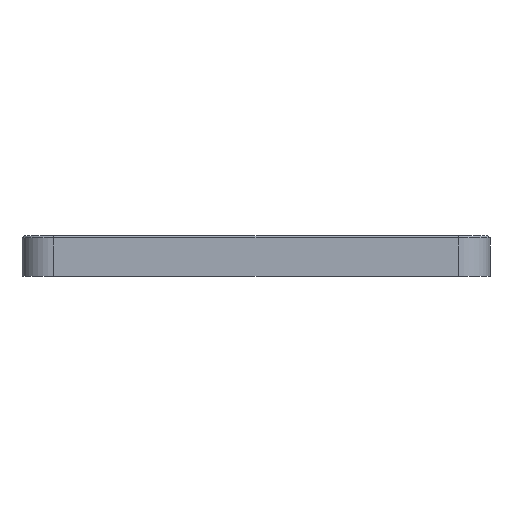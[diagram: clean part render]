
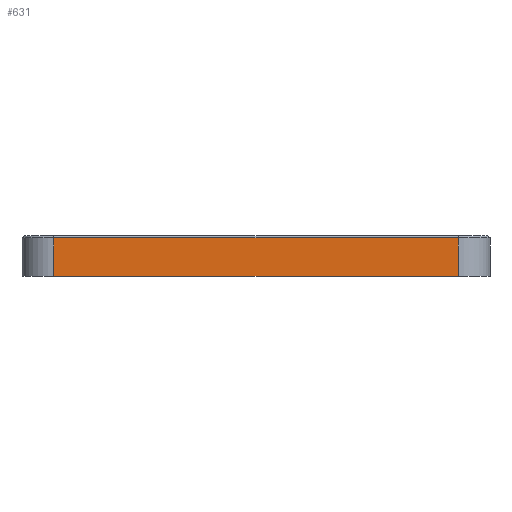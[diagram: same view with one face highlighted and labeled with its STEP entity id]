
A CAD part, left-side view. The second image highlights one B-rep face of the part: STEP entity #631.
In plain terms, the highlighted planar face has unit normal (-1, 0, 0).
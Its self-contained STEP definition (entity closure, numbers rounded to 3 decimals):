
#6 = CARTESIAN_POINT ( 'NONE',  ( -240., -205.5, -1. ) ) ;
#15 = CARTESIAN_POINT ( 'NONE',  ( -240., -15., -19. ) ) ;
#21 = ORIENTED_EDGE ( 'NONE', *, *, #369, .T. ) ;
#51 = LINE ( 'NONE', #549, #451 ) ;
#68 = EDGE_CURVE ( 'NONE', #102, #560, #481, .T. ) ;
#69 = DIRECTION ( 'NONE',  ( 0., 0., 1. ) ) ;
#102 = VERTEX_POINT ( 'NONE', #842 ) ;
#159 = LINE ( 'NONE', #165, #697 ) ;
#165 = CARTESIAN_POINT ( 'NONE',  ( -240., -15., -1. ) ) ;
#210 = CARTESIAN_POINT ( 'NONE',  ( -240., -15., -19. ) ) ;
#212 = VERTEX_POINT ( 'NONE', #6 ) ;
#236 = DIRECTION ( 'NONE',  ( 0., 0., 1. ) ) ;
#262 = DIRECTION ( 'NONE',  ( 0., 0., 1. ) ) ;
#291 = EDGE_CURVE ( 'NONE', #102, #615, #732, .T. ) ;
#296 = DIRECTION ( 'NONE',  ( -1., 0., 0. ) ) ;
#339 = CARTESIAN_POINT ( 'NONE',  ( -240., -15., -19. ) ) ;
#369 = EDGE_CURVE ( 'NONE', #212, #615, #159, .T. ) ;
#415 = EDGE_CURVE ( 'NONE', #560, #212, #51, .T. ) ;
#422 = VECTOR ( 'NONE', #69, 1000. ) ;
#449 = DIRECTION ( 'NONE',  ( 0., 1., 0. ) ) ;
#451 = VECTOR ( 'NONE', #262, 1000. ) ;
#453 = FACE_OUTER_BOUND ( 'NONE', #809, .T. ) ;
#481 = LINE ( 'NONE', #339, #731 ) ;
#514 = CARTESIAN_POINT ( 'NONE',  ( -240., -15., -1. ) ) ;
#538 = CARTESIAN_POINT ( 'NONE',  ( -240., -205.5, -19. ) ) ;
#549 = CARTESIAN_POINT ( 'NONE',  ( -240., -205.5, -19. ) ) ;
#560 = VERTEX_POINT ( 'NONE', #538 ) ;
#563 = DIRECTION ( 'NONE',  ( 0., -1., 0. ) ) ;
#615 = VERTEX_POINT ( 'NONE', #514 ) ;
#631 = ADVANCED_FACE ( 'NONE', ( #453 ), #748, .T. ) ;
#697 = VECTOR ( 'NONE', #449, 1000. ) ;
#715 = ORIENTED_EDGE ( 'NONE', *, *, #68, .T. ) ;
#731 = VECTOR ( 'NONE', #563, 1000. ) ;
#732 = LINE ( 'NONE', #210, #422 ) ;
#748 = PLANE ( 'NONE',  #841 ) ;
#809 = EDGE_LOOP ( 'NONE', ( #898, #21, #927, #715 ) ) ;
#841 = AXIS2_PLACEMENT_3D ( 'NONE', #15, #296, #236 ) ;
#842 = CARTESIAN_POINT ( 'NONE',  ( -240., -15., -19. ) ) ;
#898 = ORIENTED_EDGE ( 'NONE', *, *, #415, .T. ) ;
#927 = ORIENTED_EDGE ( 'NONE', *, *, #291, .F. ) ;
